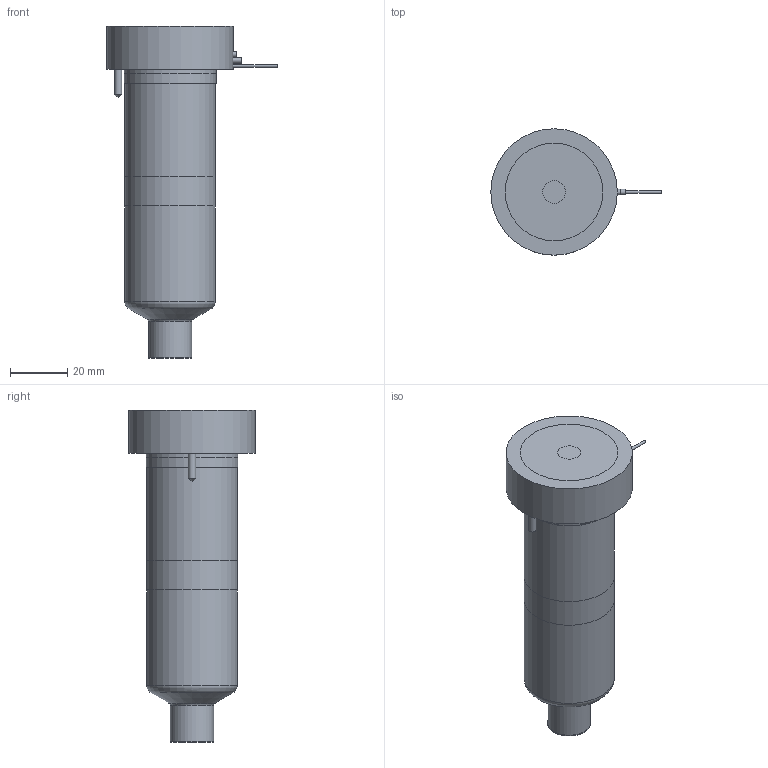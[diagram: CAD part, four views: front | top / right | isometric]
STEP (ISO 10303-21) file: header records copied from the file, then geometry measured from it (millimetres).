
FILE_DESCRIPTION(/* description */ (''),/* implementation_level */ '2;1');
FILE_NAME(/* name */ 'MXTSN-MXISN-MXOSN19095_250C_b',/* time_stamp */ '2007-01-18T09:51:23+13:00',/* author */ (''),/* organization */ (''),/* preprocessor_version */ 'ST-DEVELOPER v9',/* originating_system */ 'UGS - NX 4.0',/* authorisation */ '');
FILE_SCHEMA (('CONFIG_CONTROL_DESIGN'));
Length unit declared in the file: millimetre
Products named in the file (1): MXTSN-MXISN-MXOSN19095_250C_b
Bounding box: 59.25 x 44 x 115.53 mm (x, y, z)
Volume: 161892 mm3; surface area: 29303.5 mm2
Topology: 7 solids, 7 shells, 78 faces, 147 edges, 95 vertices
Faces by surface type: plane 35, cylinder 27, cone 8, torus 7, bspline 1
Full cylindrical faces by diameter (mm): 1 x3, 1.2 x1, 2 x2, 2.5 x2, 8 x1, 14.61 x1, 15.01 x2, 18.3 x1, 25.4 x1, 31.5 x2, 32 x2, 44 x1
Entity records: 1886 total; most frequent: CARTESIAN_POINT 376, DIRECTION 322, ORIENTED_EDGE 212, AXIS2_PLACEMENT_3D 148, EDGE_LOOP 122, EDGE_CURVE 106, VERTEX_POINT 87, ADVANCED_FACE 78
